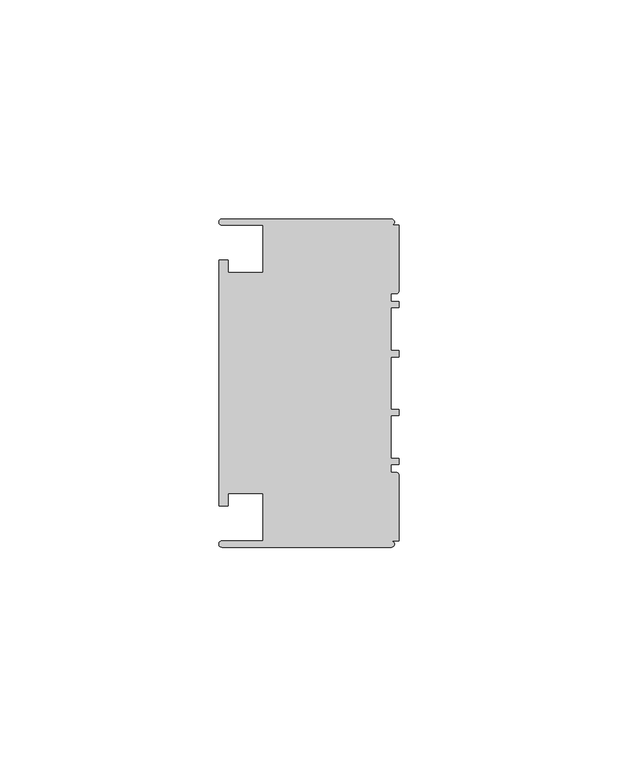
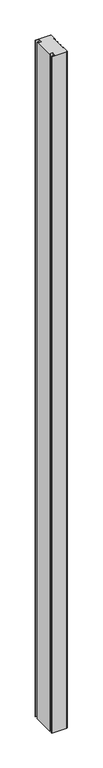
"""IFC4 building model written with IfcOpenShell, lengths in millimetres: member geometry, Прямоугольный импост : 3-AMG-2-Профиль 40Х75 Верх П."""

from ifc_helpers import new_model, si_unit, point, frame, frame_2d, origin, place, context, project, spatial, polyline, circle_curve, trimmed, segment, composite_curve, outline, extrude, source, transform, mapped, element, save


def member_c26f0006(model_context):
    return source(origin(), model_context, "Body", "SweptSolid", [
        extrude(outline(composite_curve([segment(polyline([(-1.7, -37.5), (-40.4, -37.5)]), True, "CONTINUOUS"), segment(trimmed(circle_curve(frame_2d((-40.4, -36.8)), 0.7), [point((-40.4, -37.5))], [point((-40.4, -36.1))], False, "CARTESIAN"), True, "CONTINUOUS"), segment(polyline([(-40.4, -36.1), (-31.0, -36.1), (-31.0, -25.25), (-39.0, -25.25), (-39.0, -28.1), (-41.1, -28.1), (-41.1, 28.1), (-39.0, 28.1), (-39.0, 25.25), (-31.0, 25.25), (-31.0, 36.1), (-40.4, 36.1)]), True, "CONTINUOUS"), segment(trimmed(circle_curve(frame_2d((-40.4, 36.8)), 0.7), [point((-40.4, 36.1))], [point((-40.4, 37.5))], False, "CARTESIAN"), True, "CONTINUOUS"), segment(polyline([(-40.4, 37.5), (-1.7, 37.5)]), True, "CONTINUOUS"), segment(trimmed(circle_curve(frame_2d((-1.7, 36.8)), 0.7), [point((-1.7, 37.5))], [point((-1.7, 36.1))], False, "CARTESIAN"), True, "CONTINUOUS"), segment(polyline([(-1.7, 36.1), (0.0, 36.1), (0.0, 20.95)]), True, "CONTINUOUS"), segment(trimmed(circle_curve(frame_2d((-0.5, 20.95)), 0.5), [point((0.0, 20.95))], [point((-0.5, 20.45))], False, "CARTESIAN"), True, "CONTINUOUS"), segment(polyline([(-0.5, 20.45), (-1.8, 20.45), (-1.8, 18.65), (0.0, 18.65), (0.0, 17.25), (-1.8, 17.25), (-1.8, 7.4), (0.0, 7.4), (0.0, 6.0), (-1.8, 6.0), (-1.8, -6.0), (0.0, -6.0), (0.0, -7.4), (-1.8, -7.4), (-1.8, -17.25), (0.0, -17.25), (0.0, -18.65), (-1.8, -18.65), (-1.8, -20.45), (-0.5, -20.45)]), True, "CONTINUOUS"), segment(trimmed(circle_curve(frame_2d((-0.5, -20.95)), 0.5), [point((-0.5, -20.45))], [point((0.0, -20.95))], False, "CARTESIAN"), True, "CONTINUOUS"), segment(polyline([(0.0, -20.95), (0.0, -36.1), (-1.7, -36.1)]), True, "CONTINUOUS"), segment(trimmed(circle_curve(frame_2d((-1.7, -36.8)), 0.7), [point((-1.7, -36.1))], [point((-1.7, -37.5))], False, "CARTESIAN"), True, "CONTINUOUS")], self_intersect=False)), frame((0.0, 0.0, -1845.8251447), z_axis=(0.0, 0.0, 1.0), x_axis=(1.0, 0.0, 0.0)), (0.0, 0.0, 1.0), 1845.8251447),
    ])


if __name__ == "__main__":
    model = new_model("IFC4")
    model_context = context("Model", 3, world=origin())
    ifc_project = project(units=[si_unit("LENGTHUNIT", "METRE", prefix="MILLI")], contexts=[model_context])
    site = spatial("IfcSite", under=ifc_project)
    building = spatial("IfcBuilding", under=site)
    placement = place(None, origin())
    member_shape = member_c26f0006(model_context)
    element("IfcMember", 1, ObjectType="Прямоугольный импост : 3-AMG-2-Профиль 40Х75 Верх П", at=placement, inside=building, context=model_context, shape_type="MappedRepresentation", body=[
        mapped(member_shape, transform((0.0, 0.0, 0.0), x_axis=(1.0, 0.0, 0.0), y_axis=(0.0, 1.0, 0.0), z_axis=(0.0, 0.0, 1.0))),
    ])
    save(model, "model.ifc")
